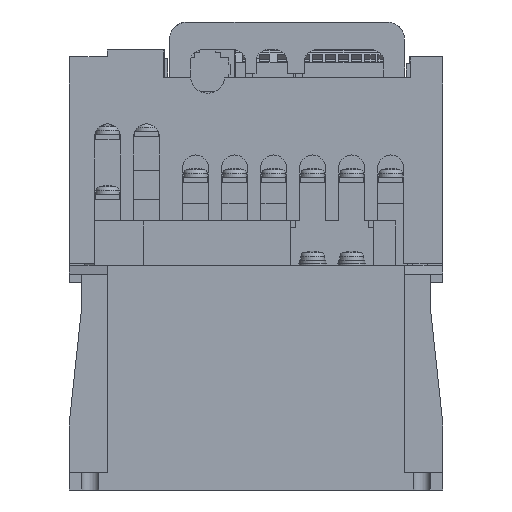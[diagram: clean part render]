
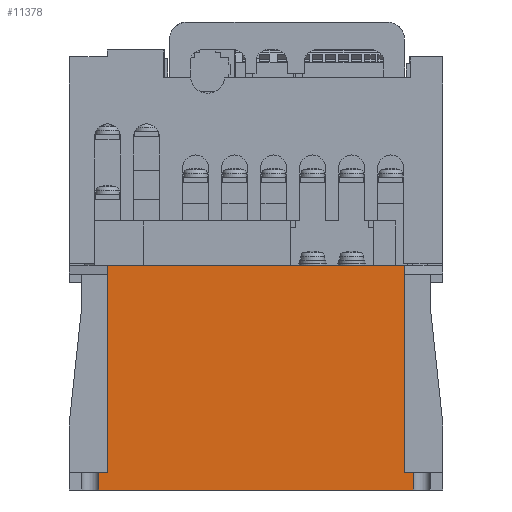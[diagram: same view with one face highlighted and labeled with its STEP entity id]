
A CAD part, front view. The second image highlights one B-rep face of the part: STEP entity #11378.
In plain terms, the highlighted planar face has unit normal (0, -1, 0).
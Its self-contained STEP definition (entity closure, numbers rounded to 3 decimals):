
#2690=DIRECTION('',(1.,0.,0.));
#2691=VECTOR('',#2690,86.);
#2692=CARTESIAN_POINT('',(-43.,-64.,65.));
#2693=LINE('',#2692,#2691);
#2943=DIRECTION('',(1.,0.,0.));
#2944=VECTOR('',#2943,2.5);
#2945=CARTESIAN_POINT('',(43.,-64.,5.));
#2946=LINE('',#2945,#2944);
#2988=DIRECTION('',(1.,0.,0.));
#2989=VECTOR('',#2988,2.5);
#2990=CARTESIAN_POINT('',(-45.5,-64.,5.));
#2991=LINE('',#2990,#2989);
#3088=DIRECTION('',(0.,0.,1.));
#3089=VECTOR('',#3088,60.);
#3090=CARTESIAN_POINT('',(43.,-64.,5.));
#3091=LINE('',#3090,#3089);
#3096=DIRECTION('',(0.,0.,1.));
#3097=VECTOR('',#3096,5.);
#3098=CARTESIAN_POINT('',(45.5,-64.,0.));
#3099=LINE('',#3098,#3097);
#3100=DIRECTION('',(0.,0.,1.));
#3101=VECTOR('',#3100,5.);
#3102=CARTESIAN_POINT('',(-45.5,-64.,0.));
#3103=LINE('',#3102,#3101);
#3104=DIRECTION('',(0.,0.,1.));
#3105=VECTOR('',#3104,60.);
#3106=CARTESIAN_POINT('',(-43.,-64.,5.));
#3107=LINE('',#3106,#3105);
#3197=DIRECTION('',(1.,0.,0.));
#3198=VECTOR('',#3197,91.);
#3199=CARTESIAN_POINT('',(-45.5,-64.,0.));
#3200=LINE('',#3199,#3198);
#5561=CARTESIAN_POINT('',(-43.,-64.,5.));
#5562=VERTEX_POINT('',#5561);
#5563=CARTESIAN_POINT('',(43.,-64.,5.));
#5565=VERTEX_POINT('',#5563);
#5573=CARTESIAN_POINT('',(-43.,-64.,65.));
#5574=VERTEX_POINT('',#5573);
#5575=CARTESIAN_POINT('',(43.,-64.,65.));
#5576=VERTEX_POINT('',#5575);
#5633=CARTESIAN_POINT('',(45.5,-64.,0.));
#5634=VERTEX_POINT('',#5633);
#5635=CARTESIAN_POINT('',(-45.5,-64.,0.));
#5637=VERTEX_POINT('',#5635);
#5661=CARTESIAN_POINT('',(45.5,-64.,5.));
#5662=VERTEX_POINT('',#5661);
#5663=CARTESIAN_POINT('',(-45.5,-64.,5.));
#5665=VERTEX_POINT('',#5663);
#11359=CARTESIAN_POINT('',(-54.,-64.,0.));
#11360=DIRECTION('',(0.,-1.,0.));
#11361=DIRECTION('',(1.,0.,0.));
#11362=AXIS2_PLACEMENT_3D('',#11359,#11360,#11361);
#11363=PLANE('',#11362);
#11365=ORIENTED_EDGE('',*,*,#11364,.F.);
#11367=ORIENTED_EDGE('',*,*,#11366,.F.);
#11369=ORIENTED_EDGE('',*,*,#11368,.T.);
#11370=ORIENTED_EDGE('',*,*,#11206,.T.);
#11372=ORIENTED_EDGE('',*,*,#11371,.T.);
#11373=ORIENTED_EDGE('',*,*,#10873,.T.);
#11374=ORIENTED_EDGE('',*,*,#11348,.F.);
#11375=ORIENTED_EDGE('',*,*,#11178,.T.);
#11376=EDGE_LOOP('',(#11365,#11367,#11369,#11370,#11372,#11373,#11374,#11375));
#11377=FACE_OUTER_BOUND('',#11376,.F.);
#11378=ADVANCED_FACE('',(#11377),#11363,.T.);
#10873=EDGE_CURVE('',#5574,#5576,#2693,.T.);
#11178=EDGE_CURVE('',#5565,#5662,#2946,.T.);
#11206=EDGE_CURVE('',#5665,#5562,#2991,.T.);
#11348=EDGE_CURVE('',#5565,#5576,#3091,.T.);
#11364=EDGE_CURVE('',#5634,#5662,#3099,.T.);
#11366=EDGE_CURVE('',#5637,#5634,#3200,.T.);
#11368=EDGE_CURVE('',#5637,#5665,#3103,.T.);
#11371=EDGE_CURVE('',#5562,#5574,#3107,.T.);
